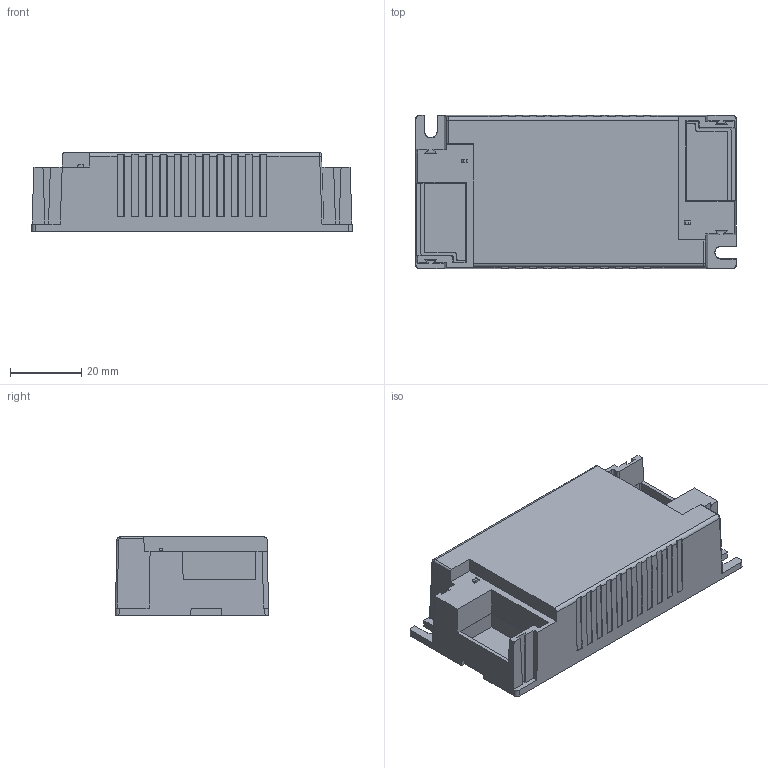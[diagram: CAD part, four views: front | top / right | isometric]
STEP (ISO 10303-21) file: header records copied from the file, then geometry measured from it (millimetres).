
FILE_DESCRIPTION(/* description */ ('Unknown'),/* implementation_level */ '2;1');
FILE_NAME(/* name */ '欧华外壳 90x43x22',/* time_stamp */ '2025-09-02T09:40:14+08:00',/* author */ ('Unknown'),/* organization */ ('Unknown'),/* preprocessor_version */ 'ST-DEVELOPER v16.7',/* originating_system */ 'DEX',/* authorisation */ $);
FILE_SCHEMA (('AUTOMOTIVE_DESIGN {1 0 10303 214 3 1 1}'));
Length unit declared in the file: millimetre
Products named in the file (3): 韁貌俋褲 90x43; 1956016859 韁貌奻褲 90x43; 1956016859 韁貌菁裔 90x43
Assembly tree (2 placements, depth 2):
  韁貌俋褲 90x43
    1956016859 韁貌奻褲 90x43
    1956016859 韁貌菁裔 90x43
Bounding box: 90 x 43 x 22 mm (x, y, z)
Volume: 15836.9 mm3; surface area: 26895.2 mm2
Topology: 2 solids, 2 shells, 333 faces, 954 edges, 632 vertices
Faces by surface type: plane 227, cylinder 102, cone 2, bspline 2
Entity records: 11039 total; most frequent: CARTESIAN_POINT 2182, ORIENTED_EDGE 1908, DIRECTION 1742, EDGE_CURVE 954, LINE 738, VECTOR 738, VERTEX_POINT 632, AXIS2_PLACEMENT_3D 502
